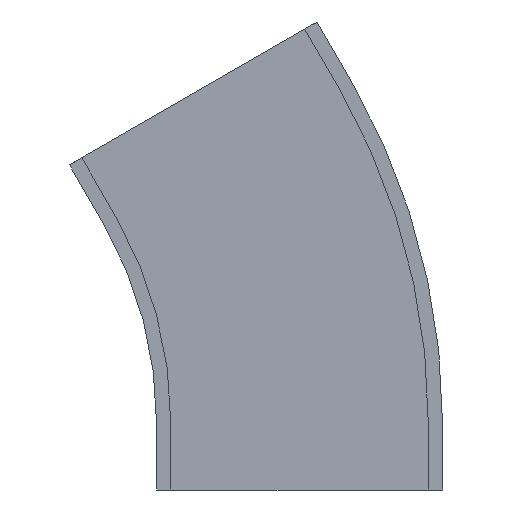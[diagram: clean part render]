
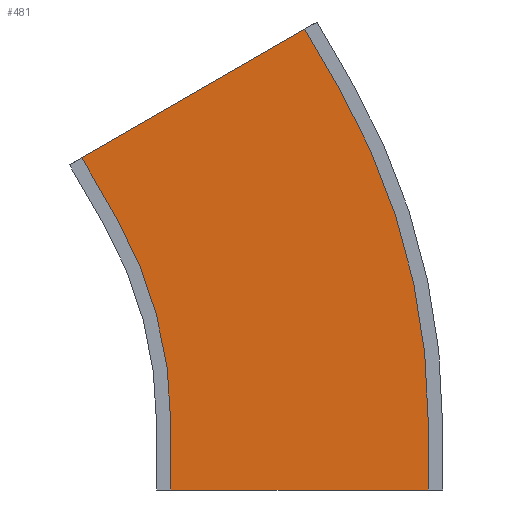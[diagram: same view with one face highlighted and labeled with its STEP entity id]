
A CAD part, front view. The second image highlights one B-rep face of the part: STEP entity #481.
In plain terms, the highlighted planar face has unit normal (0, -1, 0).
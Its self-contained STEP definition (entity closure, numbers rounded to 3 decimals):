
#19 = PLANE ( 'NONE',  #1849 ) ;
#21 = CARTESIAN_POINT ( 'NONE',  ( 527.842, -68., 304.75 ) ) ;
#26 = DIRECTION ( 'NONE',  ( 0., 1., 0. ) ) ;
#27 = DIRECTION ( 'NONE',  ( -1., 0., 0. ) ) ;
#130 = CARTESIAN_POINT ( 'NONE',  ( 990.5, -68., 0. ) ) ;
#137 = CARTESIAN_POINT ( 'NONE',  ( 527.842, -68., 304.75 ) ) ;
#140 = CARTESIAN_POINT ( 'NONE',  ( 609.5, -68., 0. ) ) ;
#141 = CARTESIAN_POINT ( 'NONE',  ( 609.5, -68., -100. ) ) ;
#142 = CARTESIAN_POINT ( 'NONE',  ( 807.798, -68., 581.853 ) ) ;
#143 = CARTESIAN_POINT ( 'NONE',  ( 857.798, -68., 495.25 ) ) ;
#144 = CARTESIAN_POINT ( 'NONE',  ( 477.842, -68., 391.353 ) ) ;
#147 = CARTESIAN_POINT ( 'NONE',  ( 990.5, -68., -100. ) ) ;
#285 = DIRECTION ( 'NONE',  ( 0., 0., 1. ) ) ;
#287 = CARTESIAN_POINT ( 'NONE',  ( 990.5, -68., -100. ) ) ;
#288 = CARTESIAN_POINT ( 'NONE',  ( 477.842, -68., 391.353 ) ) ;
#289 = CARTESIAN_POINT ( 'NONE',  ( 0., -68., -100. ) ) ;
#294 = DIRECTION ( 'NONE',  ( -1., 0., 0. ) ) ;
#295 = CARTESIAN_POINT ( 'NONE',  ( 609.5, -68., -100. ) ) ;
#297 = DIRECTION ( 'NONE',  ( 0., 0., 1. ) ) ;
#298 = DIRECTION ( 'NONE',  ( 0.5, 0., -0.866 ) ) ;
#299 = CARTESIAN_POINT ( 'NONE',  ( -50., -68., 86.603 ) ) ;
#300 = DIRECTION ( 'NONE',  ( 0.866, 0., 0.5 ) ) ;
#301 = CARTESIAN_POINT ( 'NONE',  ( 807.798, -68., 581.853 ) ) ;
#302 = DIRECTION ( 'NONE',  ( 0.5, 0., -0.866 ) ) ;
#304 = CARTESIAN_POINT ( 'NONE',  ( 0., -68., 0. ) ) ;
#305 = DIRECTION ( 'NONE',  ( 0., 1., 0. ) ) ;
#306 = DIRECTION ( 'NONE',  ( -1., 0., 0. ) ) ;
#312 = CARTESIAN_POINT ( 'NONE',  ( 0., -68., 0. ) ) ;
#313 = DIRECTION ( 'NONE',  ( 0., 1., 0. ) ) ;
#314 = DIRECTION ( 'NONE',  ( -1., 0., 0. ) ) ;
#481 = ADVANCED_FACE ( 'NONE', ( #1080 ), #19, .F. ) ;
#515 = EDGE_LOOP ( 'NONE', ( #989, #990, #991, #992, #993, #994, #995, #996 ) ) ;
#589 = VERTEX_POINT ( 'NONE', #130 ) ;
#596 = VERTEX_POINT ( 'NONE', #137 ) ;
#599 = VERTEX_POINT ( 'NONE', #140 ) ;
#600 = VERTEX_POINT ( 'NONE', #141 ) ;
#601 = VERTEX_POINT ( 'NONE', #142 ) ;
#602 = VERTEX_POINT ( 'NONE', #143 ) ;
#603 = VERTEX_POINT ( 'NONE', #144 ) ;
#606 = VERTEX_POINT ( 'NONE', #147 ) ;
#791 = EDGE_CURVE ( 'NONE', #606, #589, #1213, .T. ) ;
#792 = EDGE_CURVE ( 'NONE', #606, #600, #1211, .T. ) ;
#793 = EDGE_CURVE ( 'NONE', #600, #599, #1216, .T. ) ;
#794 = EDGE_CURVE ( 'NONE', #603, #596, #1214, .T. ) ;
#795 = EDGE_CURVE ( 'NONE', #603, #601, #1220, .T. ) ;
#796 = EDGE_CURVE ( 'NONE', #601, #602, #1222, .T. ) ;
#797 = EDGE_CURVE ( 'NONE', #602, #589, #1224, .T. ) ;
#800 = EDGE_CURVE ( 'NONE', #596, #599, #1227, .T. ) ;
#989 = ORIENTED_EDGE ( 'NONE', *, *, #797, .F. ) ;
#990 = ORIENTED_EDGE ( 'NONE', *, *, #796, .F. ) ;
#991 = ORIENTED_EDGE ( 'NONE', *, *, #795, .F. ) ;
#992 = ORIENTED_EDGE ( 'NONE', *, *, #794, .T. ) ;
#993 = ORIENTED_EDGE ( 'NONE', *, *, #800, .T. ) ;
#994 = ORIENTED_EDGE ( 'NONE', *, *, #793, .F. ) ;
#995 = ORIENTED_EDGE ( 'NONE', *, *, #792, .F. ) ;
#996 = ORIENTED_EDGE ( 'NONE', *, *, #791, .T. ) ;
#1080 = FACE_OUTER_BOUND ( 'NONE', #515, .T. ) ;
#1211 = LINE ( 'NONE', #289, #1217 ) ;
#1213 = LINE ( 'NONE', #287, #1215 ) ;
#1214 = LINE ( 'NONE', #288, #1221 ) ;
#1215 = VECTOR ( 'NONE', #285, 1000. ) ;
#1216 = LINE ( 'NONE', #295, #1219 ) ;
#1217 = VECTOR ( 'NONE', #294, 1000. ) ;
#1219 = VECTOR ( 'NONE', #297, 1000. ) ;
#1220 = LINE ( 'NONE', #299, #1223 ) ;
#1221 = VECTOR ( 'NONE', #298, 1000. ) ;
#1222 = LINE ( 'NONE', #301, #1225 ) ;
#1223 = VECTOR ( 'NONE', #300, 1000. ) ;
#1224 = CIRCLE ( 'NONE', #1885, 990.5 ) ;
#1225 = VECTOR ( 'NONE', #302, 1000. ) ;
#1227 = CIRCLE ( 'NONE', #1886, 609.5 ) ;
#1849 = AXIS2_PLACEMENT_3D ( 'NONE', #21, #26, #27 ) ;
#1885 = AXIS2_PLACEMENT_3D ( 'NONE', #304, #305, #306 ) ;
#1886 = AXIS2_PLACEMENT_3D ( 'NONE', #312, #313, #314 ) ;
